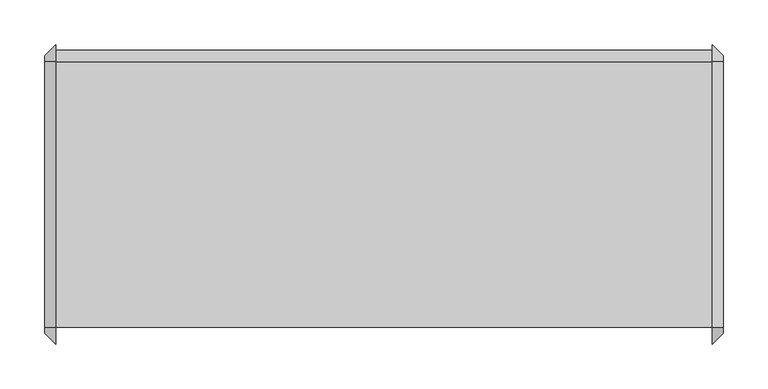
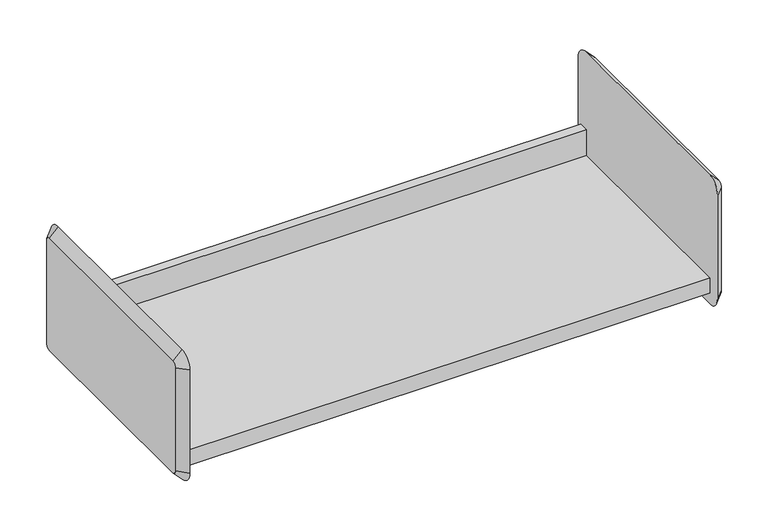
"""IFC4 building model written with IfcOpenShell, lengths in millimetres: furniture geometry, HermanMiller_ActionOffice_A3220_B-StyleStorageDisplay : Shelf 13D x 30W."""

import ifcopenshell
import ifcopenshell.guid

model = None  # the IFC model being written
_history = None  # IfcOwnerHistory: only IFC2X3 demands one
_inside = {}  # id of a spatial element -> (the spatial element, [elements in it])
_under = {}  # id of a project, library or spatial element -> (it, [spatial elements below it])
_declared = {}  # id of a project -> (the project, [libraries it declares])
_typed = {}  # id of a type object -> (the type object, [elements of that type])
_made_of = {}  # id of a material, layer set ... -> (it, [elements and type objects made of it])


def new_model(schema):
    """Start an empty IFC model of exactly this schema.

    Asked for "IFC4X3", IfcOpenShell would pick the latest addendum, in which some entities
    have other attributes; the version numbers below select the first issue.
    IFC2X3 requires an IfcOwnerHistory on every rooted entity: one is made here for all.
    """
    global model, _history
    if schema == "IFC4X3":
        model = ifcopenshell.file(schema_version=(4, 3, 0, 0))
    else:
        model = ifcopenshell.file(schema=schema)
    _inside.clear()
    _under.clear()
    _declared.clear()
    _typed.clear()
    _made_of.clear()
    _history = None
    if model.schema == "IFC2X3":
        org = make("IfcOrganization", Name="unknown")
        user = make(
            "IfcPersonAndOrganization",
            ThePerson=make("IfcPerson", FamilyName="unknown"),
            TheOrganization=org,
        )
        app = make(
            "IfcApplication",
            ApplicationDeveloper=org,
            Version="unknown",
            ApplicationFullName="unknown",
            ApplicationIdentifier="unknown",
        )
        _history = make(
            "IfcOwnerHistory",
            OwningUser=user,
            OwningApplication=app,
            ChangeAction="ADDED",
            CreationDate=0,
        )
    return model


def make(cls, **values):
    """One entity of the class cls with the attributes given. An attribute that is None is left unset."""
    return model.create_entity(
        cls, **{name: value for name, value in values.items() if value is not None}
    )


def rooted(cls, **values):
    """An entity with a GlobalId (a new one), such as an element, a storey or a relation."""
    return make(cls, GlobalId=ifcopenshell.guid.new(), OwnerHistory=_history, **values)


def si_unit(unit_type, name, prefix=None):
    """IfcSIUnit, for example si_unit("LENGTHUNIT", "METRE", prefix="MILLI")."""
    return make("IfcSIUnit", UnitType=unit_type, Prefix=prefix, Name=name)


def assignment(units):
    """IfcUnitAssignment: the units of a project."""
    return None if units is None else make("IfcUnitAssignment", Units=units)


def point(xyz):
    """IfcCartesianPoint."""
    return None if xyz is None else make("IfcCartesianPoint", Coordinates=xyz)


def direction(xyz):
    """IfcDirection."""
    return None if xyz is None else make("IfcDirection", DirectionRatios=xyz)


def frame(location, z_axis=None, x_axis=None):
    """IfcAxis2Placement3D, a coordinate frame: its origin and axes. An axis left out is left unset."""
    return make(
        "IfcAxis2Placement3D",
        Location=point(location),
        Axis=direction(z_axis),
        RefDirection=direction(x_axis),
    )


def origin():
    """The frame at (0, 0, 0) with its axes left unset."""
    return frame((0.0, 0.0, 0.0))


def place(relative_to, where):
    """IfcLocalPlacement: puts the frame where relative to a parent placement (None: the world)."""
    return make(
        "IfcLocalPlacement", PlacementRelTo=relative_to, RelativePlacement=where
    )


def context(
    kind, dimensions, precision=None, world=None, true_north=None, identifier=None
):
    """IfcGeometricRepresentationContext, for example the 3D "Model" context."""
    return make(
        "IfcGeometricRepresentationContext",
        ContextIdentifier=identifier,
        ContextType=kind,
        CoordinateSpaceDimension=dimensions,
        Precision=precision,
        WorldCoordinateSystem=world,
        TrueNorth=true_north,
    )


def project(units=None, contexts=None):
    """IfcProject with its units and contexts."""
    return rooted(
        "IfcProject",
        Name="project",
        RepresentationContexts=contexts,
        UnitsInContext=assignment(units),
    )


def spatial(cls, under=None, at=None, **own):
    """A site, building, storey or space (cls), placed at a placement, below another one or the project."""
    s = rooted(cls, ObjectPlacement=at, **own)
    if under is not None:
        _under.setdefault(under.id(), (under, []))[1].append(s)
    return s


def polyline(points):
    """IfcPolyline through the points."""
    return make("IfcPolyline", Points=[point(p) for p in points])


def circle_curve(where, radius):
    """IfcCircle in the frame where."""
    return make("IfcCircle", Position=where, Radius=radius)


def outline(outer, holes=None, kind="AREA"):
    """IfcArbitraryClosedProfileDef: a profile drawn as a closed curve; with holes, ...WithVoids."""
    if holes is None:
        return make("IfcArbitraryClosedProfileDef", ProfileType=kind, OuterCurve=outer)
    return make(
        "IfcArbitraryProfileDefWithVoids",
        ProfileType=kind,
        OuterCurve=outer,
        InnerCurves=holes,
    )


def extrude(swept, where, along, depth):
    """IfcExtrudedAreaSolid: the profile swept, set in the frame where, extruded along a direction by depth."""
    return make(
        "IfcExtrudedAreaSolid",
        SweptArea=swept,
        Position=where,
        ExtrudedDirection=direction(along),
        Depth=depth,
    )


def shape(context_of_items, identifier, shape_type, items):
    """IfcShapeRepresentation: the items that make up one representation, for example the "Body"."""
    return make(
        "IfcShapeRepresentation",
        ContextOfItems=context_of_items,
        RepresentationIdentifier=identifier,
        RepresentationType=shape_type,
        Items=items,
    )


def source(mapping_origin, context_of_items, identifier, shape_type, items):
    """IfcRepresentationMap: a shape defined once, which mapped items show again and again."""
    return make(
        "IfcRepresentationMap",
        MappingOrigin=mapping_origin,
        MappedRepresentation=shape(context_of_items, identifier, shape_type, items),
    )


def transform(
    local_origin,
    x_axis=None,
    y_axis=None,
    z_axis=None,
    scale=None,
    scale2=None,
    scale3=None,
    uniform=True,
):
    """IfcCartesianTransformationOperator3D, or its non-uniform kind. x_axis, y_axis, z_axis: its Axis1, 2, 3."""
    if uniform:
        return make(
            "IfcCartesianTransformationOperator3D",
            Axis1=direction(x_axis),
            Axis2=direction(y_axis),
            LocalOrigin=point(local_origin),
            Scale=scale,
            Axis3=direction(z_axis),
        )
    return make(
        "IfcCartesianTransformationOperator3DnonUniform",
        Axis1=direction(x_axis),
        Axis2=direction(y_axis),
        LocalOrigin=point(local_origin),
        Scale=scale,
        Axis3=direction(z_axis),
        Scale2=scale2,
        Scale3=scale3,
    )


def mapped(mapping_source, mapping_target):
    """IfcMappedItem: shows the shape of a source again, moved by a transform."""
    return make(
        "IfcMappedItem", MappingSource=mapping_source, MappingTarget=mapping_target
    )


def made_of(thing, what):
    """Note that an element or type object is made of a material, layer set ...; save() writes the relation."""
    if what is not None:
        _made_of.setdefault(what.id(), (what, []))[1].append(thing)
    return thing


def element(
    cls,
    number,
    at=None,
    inside=None,
    cuts=None,
    type_object=None,
    material=None,
    context=None,
    identifier="Body",
    shape_type=None,
    held_by="IfcProductDefinitionShape",
    body=None,
    shapes=None,
    **own,
):
    """One element of the class cls, such as IfcWall. Its Tag is "e" and its number.

    at: its placement. inside: the storey or other place that contains it. cuts: it is an
    opening in that element (IfcRelVoidsElement). A single representation is given by context,
    identifier, shape_type and body (its items); several are given by shapes. held_by: the class
    of the entity that holds the representations. save() writes the other relations.
    """
    e = rooted(cls, Tag="e%d" % number, ObjectPlacement=at, **own)
    if body is not None:
        shapes = [shape(context, identifier, shape_type, body)]
    if shapes is not None:
        e.Representation = make(held_by, Representations=shapes)
    if inside is not None:
        _inside.setdefault(inside.id(), (inside, []))[1].append(e)
    if cuts is not None:
        rooted(
            "IfcRelVoidsElement", RelatingBuildingElement=cuts, RelatedOpeningElement=e
        )
    if type_object is not None:
        _typed.setdefault(type_object.id(), (type_object, []))[1].append(e)
    return made_of(e, material)


def aggregate(whole, parts):
    """IfcRelAggregates: a whole, such as a stair, and the parts it consists of."""
    return rooted("IfcRelAggregates", RelatingObject=whole, RelatedObjects=parts)


def save(model, path):
    """Write the relations noted so far, then the file.

    IfcRelAggregates (storeys below a building ...), IfcRelContainedInSpatialStructure (elements
    in a storey), IfcRelDefinesByType, IfcRelAssociatesMaterial and IfcRelDeclares: one each for
    every whole, place, type object, material and project.
    """
    for whole, parts in _under.values():
        aggregate(whole, parts)
    for where, things in _inside.values():
        rooted(
            "IfcRelContainedInSpatialStructure",
            RelatedElements=things,
            RelatingStructure=where,
        )
    for kind, things in _typed.values():
        rooted("IfcRelDefinesByType", RelatedObjects=things, RelatingType=kind)
    for what, things in _made_of.values():
        rooted("IfcRelAssociatesMaterial", RelatedObjects=things, RelatingMaterial=what)
    for by, libraries in _declared.values():
        rooted("IfcRelDeclares", RelatingContext=by, RelatedDefinitions=libraries)
    model.write(path)


def plane_surface(at):
    """IfcPlane: the flat surface through the origin of the frame at, square to its z axis."""
    return make("IfcPlane", Position=at)


def revolved_surface(curve, axis_point, axis_direction):
    """IfcSurfaceOfRevolution: the curve turned about the line through axis_point along axis_direction."""
    return make(
        "IfcSurfaceOfRevolution",
        SweptCurve=make("IfcArbitraryOpenProfileDef", ProfileType="CURVE", Curve=curve),
        AxisPosition=make("IfcAxis1Placement", Location=point(axis_point), Axis=direction(axis_direction)),
    )


def advanced_brep(points, edges, surfaces, faces):
    """IfcAdvancedBrep: a solid bounded by faces that lie on surfaces and meet in shared edges.

    An edge is (start, end): straight between two places in points (the first is 0);
    or (start, end, curve); or (start, end, curve, False) where it runs against its curve.
    A face is (place in surfaces, loops), or (place, loops, False) where it looks against
    its surface's normal. A loop lists edges by number (the first is 1), with a minus sign
    where the edge is run from its end to its start. The first loop is the outer one.
    """
    corners = [point(p) for p in points]
    vertices = [make("IfcVertexPoint", VertexGeometry=c) for c in corners]
    made = []
    for start, end, *more in edges:
        made.append(
            make(
                "IfcEdgeCurve",
                EdgeStart=vertices[start],
                EdgeEnd=vertices[end],
                EdgeGeometry=more[0] if more else make("IfcPolyline", Points=[corners[start], corners[end]]),
                SameSense=more[1] if len(more) > 1 else True,
            )
        )
    hull = []
    for where, loops, *sense in faces:
        bounds = []
        for j, loop in enumerate(loops):
            ring = [make("IfcOrientedEdge", EdgeElement=made[abs(k) - 1], Orientation=k > 0) for k in loop]
            bounds.append(
                make(
                    "IfcFaceOuterBound" if j == 0 else "IfcFaceBound",
                    Bound=make("IfcEdgeLoop", EdgeList=ring),
                    Orientation=True,
                )
            )
        hull.append(make("IfcAdvancedFace", Bounds=bounds, FaceSurface=surfaces[where], SameSense=sense[0] if sense else True))
    return make("IfcAdvancedBrep", Outer=make("IfcClosedShell", CfsFaces=hull))


def furniture_a8f42cb3(model_context):
    return source(origin(), model_context, "Body", "SolidModel", [
        extrude(outline(polyline([(-136.525, 1371.6), (161.925, 1371.6), (161.925, 1409.7), (174.625, 1409.7), (174.625, 1406.525), (165.1, 1406.525), (165.1, 1368.425), (-133.35, 1368.425), (-133.35, 1349.375), (-136.525, 1349.375), (-136.525, 1371.6)])), frame((-492.2420045, 0.0, 0.0), z_axis=(1.0, 0.0, 0.0), x_axis=(0.0, 1.0, 0.0)), (0.0, 0.0, 1.0), 736.6),
        advanced_brep(
        [(257.0579955, 161.925, 1511.3), (257.0579955, -136.525, 1511.3), (257.0579955, -142.875, 1504.95), (257.0579955, -142.875, 1352.55), (257.0579955, -136.525, 1346.2), (257.0579955, 161.925, 1346.2), (257.0579955, 168.275, 1352.55), (257.0579955, 168.275, 1504.95), (244.3579955, 161.925, 1524.0), (244.3579955, 180.975, 1504.95), (244.3579955, 180.975, 1352.55), (244.3579955, 161.925, 1333.5), (244.3579955, -136.525, 1333.5), (244.3579955, -155.575, 1352.55), (244.3579955, -155.575, 1504.95), (244.3579955, -136.525, 1524.0)],
        [
            (0, 1),
            (1, 2, circle_curve(frame((257.0579955, -136.525, 1504.95), z_axis=(1.0, 2.0730084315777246e-12, -2.1529444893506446e-12), x_axis=(2.15291077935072e-12, 0.0, 1.0)), 6.35)),
            (2, 3),
            (3, 4, circle_curve(frame((257.0579955, -136.525, 1352.55), z_axis=(1.0, 2.0596857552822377e-12, 2.06767936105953e-12), x_axis=(2.059647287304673e-12, -1.0, 0.0)), 6.35)),
            (4, 5),
            (5, 6, circle_curve(frame((257.0579955, 161.925, 1352.55), z_axis=(1.0, 2.0889956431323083e-12, -2.0889956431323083e-12), x_axis=(-2.0890080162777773e-12, 0.0, -1.0)), 6.35)),
            (6, 7),
            (7, 0, circle_curve(frame((257.0579955, 161.925, 1504.95), z_axis=(1.0, 2.0783375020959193e-12, 2.003730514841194e-12), x_axis=(-2.0783313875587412e-12, 1.0, 0.0)), 6.35)),
            (8, 9, circle_curve(frame((244.3579955, 161.925, 1504.95), z_axis=(-1.0, -2.0783375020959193e-12, -2.003730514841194e-12), x_axis=(-2.0783313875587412e-12, 1.0, 0.0)), 19.05)),
            (9, 10),
            (10, 11, circle_curve(frame((244.3579955, 161.925, 1352.55), z_axis=(-1.0, -2.0889956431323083e-12, 2.0889956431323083e-12), x_axis=(-2.0890080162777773e-12, 0.0, -1.0)), 19.05)),
            (11, 12),
            (12, 13, circle_curve(frame((244.3579955, -136.525, 1352.55), z_axis=(-1.0, -2.0596857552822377e-12, -2.06767936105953e-12), x_axis=(2.059647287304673e-12, -1.0, 0.0)), 19.05)),
            (13, 14),
            (14, 15, circle_curve(frame((244.3579955, -136.525, 1504.95), z_axis=(-1.0, -2.0730084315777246e-12, 2.1529444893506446e-12), x_axis=(2.15291077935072e-12, 0.0, 1.0)), 19.05)),
            (15, 8),
            (15, 1),
            (0, 8),
            (14, 2),
            (13, 3),
            (12, 4),
            (11, 5),
            (10, 6),
            (9, 7),
        ],
        [
            plane_surface(frame((257.0579955, 12.7, 1428.75), z_axis=(1.0, 0.0, 0.0), x_axis=(0.0, -1.0, 0.0))),
            plane_surface(frame((244.3579955, 12.7, 1428.75), z_axis=(-1.0, 0.0, 0.0), x_axis=(0.0, -1.0, 0.0))),
            plane_surface(frame((244.3579955, 12.7, 1524.0), z_axis=(0.7071067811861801, 0.0, 0.707106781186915), x_axis=(0.0, -1.0, 0.0))),
            revolved_surface(polyline([(257.0579955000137, -136.525, 1511.2999999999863), (244.3579955, -136.525, 1524.0)]), (263.4079955, -136.525, 1504.95), (-1.0, -2.0730084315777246e-12, 2.1529444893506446e-12)),
            plane_surface(frame((244.3579955, -155.575, 1428.75), z_axis=(0.7071067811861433, -0.7071067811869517, 0.0), x_axis=(0.0, 0.0, -1.0))),
            revolved_surface(polyline([(257.0579955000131, -142.87499999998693, 1352.55), (244.35799549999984, -155.57500000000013, 1352.55)]), (263.4079955, -136.525, 1352.55), (-1.0, -2.0596857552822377e-12, -2.06767936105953e-12)),
            plane_surface(frame((244.3579955, 12.7, 1333.5), z_axis=(0.7071067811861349, 0.0, -0.7071067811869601), x_axis=(0.0, 1.0, 0.0))),
            revolved_surface(polyline([(257.0579955, 161.925, 1346.2), (244.3579954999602, 161.925, 1333.4999999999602)]), (263.4079955, 161.925, 1352.55), (-1.0, -2.0889956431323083e-12, 2.0889956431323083e-12)),
            plane_surface(frame((244.3579955, 180.975, 1428.75), z_axis=(0.7071067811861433, 0.7071067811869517, 0.0), x_axis=(0.0, 0.0, 1.0))),
            revolved_surface(polyline([(257.0579955, 168.275, 1504.95), (244.3579954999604, 180.97500000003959, 1504.95)]), (263.4079955, 161.925, 1504.95), (-1.0, -2.0783375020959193e-12, -2.003730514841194e-12)),
        ],
        [
            (0, [[1, 2, 3, 4, 5, 6, 7, 8]]),
            (1, [[9, 10, 11, 12, 13, 14, 15, 16]]),
            (2, [[-16, 17, -1, 18]]),
            (3, [[-15, 19, -2, -17]]),
            (4, [[-14, 20, -3, -19]]),
            (5, [[-13, 21, -4, -20]]),
            (6, [[-12, 22, -5, -21]]),
            (7, [[-11, 23, -6, -22]]),
            (8, [[-10, 24, -7, -23]]),
            (9, [[-9, -18, -8, -24]]),
        ],
    ),
        advanced_brep(
        [(-504.9420045, -136.525, 1511.3), (-504.9420045, 161.925, 1511.3), (-504.9420045, 168.275, 1504.95), (-504.9420045, 168.275, 1352.55), (-504.9420045, 161.925, 1346.2), (-504.9420045, -136.525, 1346.2), (-504.9420045, -142.875, 1352.55), (-504.9420045, -142.875, 1504.95), (-492.2420045, -136.525, 1524.0), (-492.2420045, -155.575, 1504.95), (-492.2420045, -155.575, 1352.55), (-492.2420045, -136.525, 1333.5), (-492.2420045, 161.925, 1333.5), (-492.2420045, 180.975, 1352.55), (-492.2420045, 180.975, 1504.95), (-492.2420045, 161.925, 1524.0)],
        [
            (0, 1),
            (1, 2, circle_curve(frame((-504.9420045, 161.925, 1504.95), z_axis=(-1.0, 0.0, 0.0), x_axis=(0.0, 0.0, 1.0)), 6.35)),
            (2, 3),
            (3, 4, circle_curve(frame((-504.9420045, 161.925, 1352.55), z_axis=(-1.0, 0.0, 0.0), x_axis=(0.0, 1.0, 0.0)), 6.35)),
            (4, 5),
            (5, 6, circle_curve(frame((-504.9420045, -136.525, 1352.55), z_axis=(-1.0, 0.0, 0.0), x_axis=(0.0, 0.0, -1.0)), 6.35)),
            (6, 7),
            (7, 0, circle_curve(frame((-504.9420045, -136.525, 1504.95), z_axis=(-1.0, 0.0, 0.0), x_axis=(0.0, -1.0, 0.0)), 6.35)),
            (8, 9, circle_curve(frame((-492.2420045, -136.525, 1504.95), z_axis=(1.0, 0.0, 0.0), x_axis=(0.0, -1.0, 0.0)), 19.05)),
            (9, 10),
            (10, 11, circle_curve(frame((-492.2420045, -136.525, 1352.55), z_axis=(1.0, 0.0, 0.0), x_axis=(0.0, 0.0, -1.0)), 19.05)),
            (11, 12),
            (12, 13, circle_curve(frame((-492.2420045, 161.925, 1352.55), z_axis=(1.0, 0.0, 0.0), x_axis=(0.0, 1.0, 0.0)), 19.05)),
            (13, 14),
            (14, 15, circle_curve(frame((-492.2420045, 161.925, 1504.95), z_axis=(1.0, 0.0, 0.0), x_axis=(0.0, 0.0, 1.0)), 19.05)),
            (15, 8),
            (15, 1),
            (0, 8),
            (14, 2),
            (13, 3),
            (12, 4),
            (11, 5),
            (10, 6),
            (9, 7),
        ],
        [
            plane_surface(frame((-504.9420045, 12.7, 1428.75), z_axis=(-1.0, 0.0, 0.0), x_axis=(0.0, -1.0, 0.0))),
            plane_surface(frame((-492.2420045, 12.7, 1428.75), z_axis=(1.0, 0.0, 0.0), x_axis=(0.0, -1.0, 0.0))),
            plane_surface(frame((-492.2420045, 12.7, 1524.0), z_axis=(-0.7071067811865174, 0.0, 0.7071067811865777), x_axis=(0.0, 1.0, 0.0))),
            revolved_surface(polyline([(-504.9420045, 161.925, 1511.3), (-492.2420045, 161.925, 1524.0)]), (-511.2920045, 161.925, 1504.95), (1.0, 0.0, 0.0)),
            plane_surface(frame((-492.2420045, 180.975, 1428.75), z_axis=(-0.7071067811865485, 0.7071067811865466, 0.0), x_axis=(0.0, 0.0, -1.0))),
            revolved_surface(polyline([(-504.9420045, 168.27500000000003, 1352.55), (-492.2420045, 180.975, 1352.55)]), (-511.2920045, 161.925, 1352.55), (1.0, 0.0, 0.0)),
            plane_surface(frame((-492.2420045, 12.7, 1333.5), z_axis=(-0.7071067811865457, 0.0, -0.7071067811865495), x_axis=(0.0, -1.0, 0.0))),
            revolved_surface(polyline([(-504.9420045, -136.525, 1346.2), (-492.2420045, -136.525, 1333.5)]), (-511.2920045, -136.525, 1352.55), (1.0, 0.0, 0.0)),
            plane_surface(frame((-492.2420045, -155.575, 1428.75), z_axis=(-0.7071067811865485, -0.7071067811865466, 0.0), x_axis=(0.0, 0.0, 1.0))),
            revolved_surface(polyline([(-504.9420045, -142.87500000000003, 1504.95), (-492.2420045, -155.575, 1504.95)]), (-511.2920045, -136.525, 1504.95), (1.0, 0.0, 0.0)),
        ],
        [
            (0, [[1, 2, 3, 4, 5, 6, 7, 8]]),
            (1, [[9, 10, 11, 12, 13, 14, 15, 16]]),
            (2, [[-16, 17, -1, 18]]),
            (3, [[-15, 19, -2, -17]]),
            (4, [[-14, 20, -3, -19]]),
            (5, [[-13, 21, -4, -20]]),
            (6, [[-12, 22, -5, -21]]),
            (7, [[-11, 23, -6, -22]]),
            (8, [[-10, 24, -7, -23]]),
            (9, [[-9, -18, -8, -24]]),
        ],
    ),
    ])


if __name__ == "__main__":
    model = new_model("IFC4")
    model_context = context("Model", 3, world=origin())
    ifc_project = project(units=[si_unit("LENGTHUNIT", "METRE", prefix="MILLI")], contexts=[model_context])
    site = spatial("IfcSite", under=ifc_project)
    building = spatial("IfcBuilding", under=site)
    placement = place(None, origin())
    furniture_shape = furniture_a8f42cb3(model_context)
    element("IfcFurniture", 1, ObjectType="HermanMiller_ActionOffice_A3220_B-StyleStorageDisplay : Shelf 13D x 30W", at=placement, inside=building, context=model_context, shape_type="MappedRepresentation", body=[
        mapped(furniture_shape, transform((0.0, 0.0, 0.0), x_axis=(1.0, 0.0, 0.0), y_axis=(0.0, 1.0, 0.0), z_axis=(0.0, 0.0, 1.0))),
    ])
    save(model, "model.ifc")
